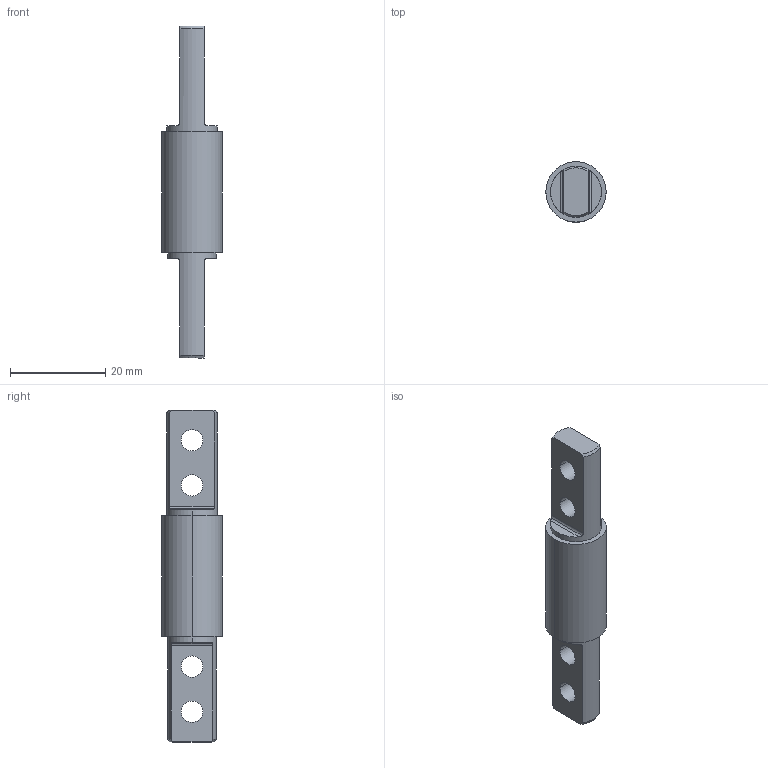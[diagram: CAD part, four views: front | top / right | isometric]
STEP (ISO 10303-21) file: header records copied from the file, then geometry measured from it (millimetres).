
FILE_DESCRIPTION(('STEP AP214'),'1');
FILE_NAME('C:/Users/HAN/Desktop/3000-0601-HNG Rev 0_0.stp','2012-12-04T04:13:10',(' '),(' '),'Spatial InterOp 3D',' ',' ');
FILE_SCHEMA(('automotive_design'));
Length unit declared in the file: inch
Products named in the file (3): 3000-0501-TUB Rev 0_0; 3000-0501-SHA Rev 0_0
Bounding box: 12.7 x 12.7 x 69.85 mm (x, y, z)
Volume: 5217.4 mm3; surface area: 4674.9 mm2
Topology: 3 solids, 4 shells, 56 faces, 136 edges, 90 vertices
Faces by surface type: cylinder 32, plane 18, cone 6
Entity records: 2298 total; most frequent: CARTESIAN_POINT 457, DIRECTION 292, ORIENTED_EDGE 272, EDGE_CURVE 136, AXIS2_PLACEMENT_3D 121, VERTEX_POINT 90, EDGE_LOOP 70, CIRCLE 62
